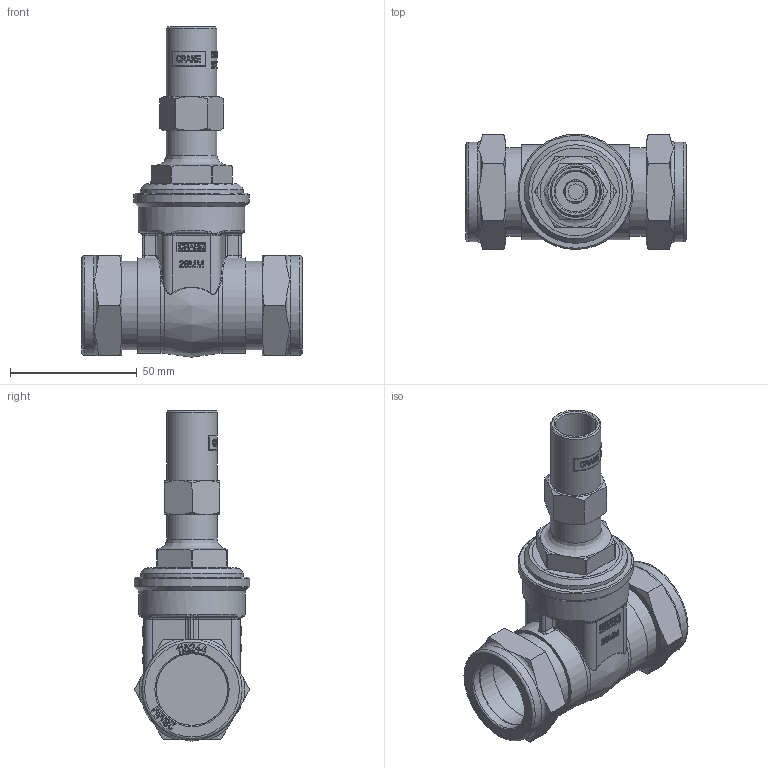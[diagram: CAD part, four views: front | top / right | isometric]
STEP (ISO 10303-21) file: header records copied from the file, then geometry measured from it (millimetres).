
FILE_DESCRIPTION((''),'2;1');
FILE_NAME('P:\Fastrack\53972_CRANE 3D\Gate Valves\Work Space\Lockshield\D255C_28mm\D255C_28mm.stp','2011-03-14T11:06:35',('btaylor'),(''),'Autodesk Inventor 2008','Autodesk Inventor 2008','');
FILE_SCHEMA(('AUTOMOTIVE_DESIGN { 1 0 10303 214 1 1 1 1 }'));
Length unit declared in the file: millimetre
Products named in the file (1): D255C_28mm
Bounding box: 87.09 x 45.61 x 130.4 mm (x, y, z)
Volume: 131026.6 mm3; surface area: 33697.5 mm2
Topology: 1 solids, 3 shells, 1317 faces, 3461 edges, 2259 vertices
Faces by surface type: plane 627, bspline 482, cylinder 130, cone 60, torus 18
Full cylindrical faces by diameter (mm): 6 x1, 9 x1, 9.5 x1, 16 x1, 18.376 x1, 20 x2, 28.225 x2, 28.25 x2, 28.3 x2, 34.565 x1, 35 x4, 37.6 x2, 39.4 x2, 40.7 x1, 42 x1, 45.5 x1
Entity records: 105313 total; most frequent: CARTESIAN_POINT 75299, ORIENTED_EDGE 6762, DIRECTION 4346, EDGE_CURVE 3381, VERTEX_POINT 2238, VECTOR 1752, LINE 1752, EDGE_LOOP 1489
